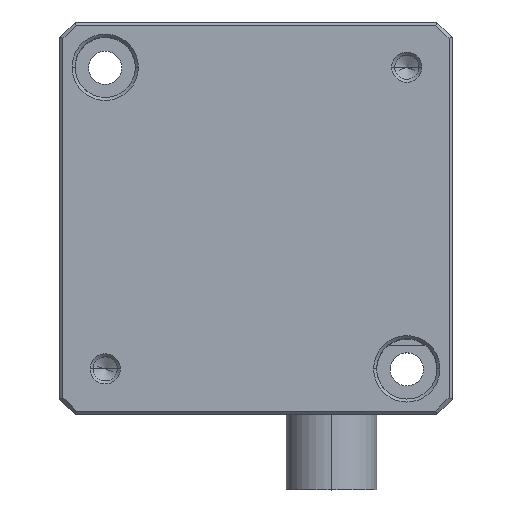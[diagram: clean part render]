
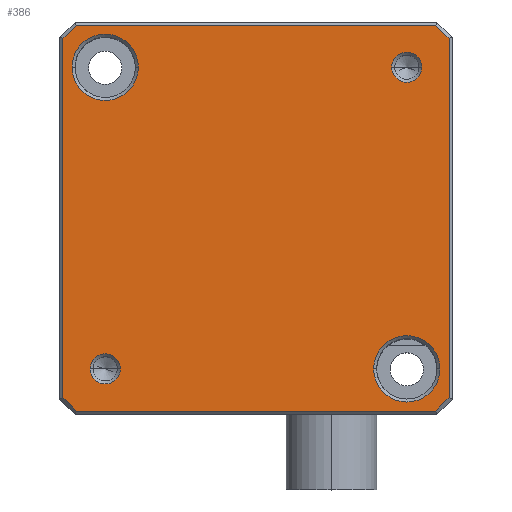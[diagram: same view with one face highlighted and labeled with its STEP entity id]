
A CAD part, top view. The second image highlights one B-rep face of the part: STEP entity #386.
In plain terms, the highlighted planar face has unit normal (0, 0, 1).
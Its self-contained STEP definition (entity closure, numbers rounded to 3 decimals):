
#71 = VERTEX_POINT ( 'NONE', #973 ) ;
#75 = AXIS2_PLACEMENT_3D ( 'NONE', #402, #1815, #2002 ) ;
#96 = DIRECTION ( 'NONE',  ( 1., 0., 0. ) ) ;
#117 = LINE ( 'NONE', #1059, #268 ) ;
#134 = EDGE_CURVE ( 'NONE', #178, #1342, #1196, .T. ) ;
#176 = EDGE_CURVE ( 'NONE', #1042, #961, #513, .T. ) ;
#178 = VERTEX_POINT ( 'NONE', #2029 ) ;
#181 = ORIENTED_EDGE ( 'NONE', *, *, #134, .T. ) ;
#190 = VECTOR ( 'NONE', #257, 1000. ) ;
#191 = EDGE_CURVE ( 'NONE', #1541, #815, #117, .T. ) ;
#244 = EDGE_CURVE ( 'NONE', #1086, #1509, #955, .T. ) ;
#257 = DIRECTION ( 'NONE',  ( -1., 0., 0. ) ) ;
#268 = VECTOR ( 'NONE', #678, 1000. ) ;
#296 = DIRECTION ( 'NONE',  ( 1., 0., 0. ) ) ;
#312 = CARTESIAN_POINT ( 'NONE',  ( -11., -10., 24. ) ) ;
#364 = FACE_BOUND ( 'NONE', #1144, .T. ) ;
#365 = EDGE_LOOP ( 'NONE', ( #1850, #181, #827, #1112, #2293, #1598, #2474, #1398 ) ) ;
#369 = EDGE_LOOP ( 'NONE', ( #1533, #2383 ) ) ;
#386 = ADVANCED_FACE ( 'NONE', ( #2052, #1922, #364, #1415, #1646 ), #1659, .T. ) ;
#402 = CARTESIAN_POINT ( 'NONE',  ( 10., 10., 24. ) ) ;
#408 = CARTESIAN_POINT ( 'NONE',  ( -12.8, 11.917, 24. ) ) ;
#417 = CARTESIAN_POINT ( 'NONE',  ( -10., -10., 24. ) ) ;
#423 = VECTOR ( 'NONE', #1128, 1000. ) ;
#425 = EDGE_CURVE ( 'NONE', #2059, #1367, #1527, .T. ) ;
#475 = EDGE_CURVE ( 'NONE', #815, #1157, #2471, .T. ) ;
#494 = CARTESIAN_POINT ( 'NONE',  ( 11.917, -12.8, 24. ) ) ;
#513 = CIRCLE ( 'NONE', #1621, 1. ) ;
#601 = AXIS2_PLACEMENT_3D ( 'NONE', #1251, #699, #2211 ) ;
#618 = EDGE_LOOP ( 'NONE', ( #1450, #2083 ) ) ;
#630 = CARTESIAN_POINT ( 'NONE',  ( -12.359, 12.359, 24. ) ) ;
#631 = LINE ( 'NONE', #1194, #190 ) ;
#638 = VECTOR ( 'NONE', #2294, 1000. ) ;
#666 = CARTESIAN_POINT ( 'NONE',  ( 10., -10., 24. ) ) ;
#678 = DIRECTION ( 'NONE',  ( 1., 0., 0. ) ) ;
#689 = LINE ( 'NONE', #1312, #944 ) ;
#699 = DIRECTION ( 'NONE',  ( 0., 0., -1. ) ) ;
#711 = DIRECTION ( 'NONE',  ( 0., 0., 1. ) ) ;
#715 = CARTESIAN_POINT ( 'NONE',  ( 0., 0., 24. ) ) ;
#795 = EDGE_CURVE ( 'NONE', #1367, #2059, #1445, .T. ) ;
#801 = DIRECTION ( 'NONE',  ( 1., 0., 0. ) ) ;
#813 = EDGE_CURVE ( 'NONE', #71, #1536, #1129, .T. ) ;
#815 = VERTEX_POINT ( 'NONE', #494 ) ;
#823 = ORIENTED_EDGE ( 'NONE', *, *, #795, .T. ) ;
#827 = ORIENTED_EDGE ( 'NONE', *, *, #1851, .T. ) ;
#841 = CIRCLE ( 'NONE', #2286, 2.2 ) ;
#857 = AXIS2_PLACEMENT_3D ( 'NONE', #715, #711, #1284 ) ;
#893 = LINE ( 'NONE', #630, #1879 ) ;
#934 = EDGE_CURVE ( 'NONE', #1509, #1086, #841, .T. ) ;
#944 = VECTOR ( 'NONE', #2266, 1000. ) ;
#945 = AXIS2_PLACEMENT_3D ( 'NONE', #666, #2391, #1228 ) ;
#955 = CIRCLE ( 'NONE', #2153, 2.2 ) ;
#961 = VERTEX_POINT ( 'NONE', #312 ) ;
#973 = CARTESIAN_POINT ( 'NONE',  ( 11., 10., 24. ) ) ;
#1036 = CARTESIAN_POINT ( 'NONE',  ( 7.8, -10., 24. ) ) ;
#1037 = DIRECTION ( 'NONE',  ( -0.707, -0.707, 0. ) ) ;
#1042 = VERTEX_POINT ( 'NONE', #1664 ) ;
#1058 = ORIENTED_EDGE ( 'NONE', *, *, #425, .T. ) ;
#1059 = CARTESIAN_POINT ( 'NONE',  ( 12., -12.8, 24. ) ) ;
#1086 = VERTEX_POINT ( 'NONE', #1685 ) ;
#1112 = ORIENTED_EDGE ( 'NONE', *, *, #1837, .T. ) ;
#1120 = EDGE_CURVE ( 'NONE', #2357, #2149, #1469, .T. ) ;
#1128 = DIRECTION ( 'NONE',  ( 0.707, 0.707, 0. ) ) ;
#1129 = CIRCLE ( 'NONE', #601, 1. ) ;
#1144 = EDGE_LOOP ( 'NONE', ( #1058, #823 ) ) ;
#1157 = VERTEX_POINT ( 'NONE', #2301 ) ;
#1194 = CARTESIAN_POINT ( 'NONE',  ( -12., 12.8, 24. ) ) ;
#1196 = LINE ( 'NONE', #1231, #638 ) ;
#1228 = DIRECTION ( 'NONE',  ( 1., 0., 0. ) ) ;
#1231 = CARTESIAN_POINT ( 'NONE',  ( 12.359, 12.359, 24. ) ) ;
#1251 = CARTESIAN_POINT ( 'NONE',  ( 10., 10., 24. ) ) ;
#1284 = DIRECTION ( 'NONE',  ( 1., 0., 0. ) ) ;
#1312 = CARTESIAN_POINT ( 'NONE',  ( 12.8, 12., 24. ) ) ;
#1314 = VECTOR ( 'NONE', #1333, 1000. ) ;
#1333 = DIRECTION ( 'NONE',  ( 0., -1., 0. ) ) ;
#1342 = VERTEX_POINT ( 'NONE', #1549 ) ;
#1367 = VERTEX_POINT ( 'NONE', #1036 ) ;
#1398 = ORIENTED_EDGE ( 'NONE', *, *, #475, .T. ) ;
#1408 = AXIS2_PLACEMENT_3D ( 'NONE', #417, #1752, #801 ) ;
#1415 = FACE_BOUND ( 'NONE', #618, .T. ) ;
#1445 = CIRCLE ( 'NONE', #945, 2.2 ) ;
#1450 = ORIENTED_EDGE ( 'NONE', *, *, #176, .T. ) ;
#1453 = ORIENTED_EDGE ( 'NONE', *, *, #244, .T. ) ;
#1469 = LINE ( 'NONE', #1712, #1314 ) ;
#1484 = CARTESIAN_POINT ( 'NONE',  ( -12.8, -11.917, 24. ) ) ;
#1509 = VERTEX_POINT ( 'NONE', #1834 ) ;
#1510 = CARTESIAN_POINT ( 'NONE',  ( -12.359, -12.359, 24. ) ) ;
#1527 = CIRCLE ( 'NONE', #2021, 2.2 ) ;
#1533 = ORIENTED_EDGE ( 'NONE', *, *, #813, .T. ) ;
#1536 = VERTEX_POINT ( 'NONE', #2491 ) ;
#1541 = VERTEX_POINT ( 'NONE', #2102 ) ;
#1549 = CARTESIAN_POINT ( 'NONE',  ( 11.917, 12.8, 24. ) ) ;
#1598 = ORIENTED_EDGE ( 'NONE', *, *, #1700, .T. ) ;
#1621 = AXIS2_PLACEMENT_3D ( 'NONE', #2384, #1629, #296 ) ;
#1629 = DIRECTION ( 'NONE',  ( 0., 0., -1. ) ) ;
#1636 = DIRECTION ( 'NONE',  ( 0., 0., -1. ) ) ;
#1646 = FACE_BOUND ( 'NONE', #369, .T. ) ;
#1648 = DIRECTION ( 'NONE',  ( 0., 0., -1. ) ) ;
#1659 = PLANE ( 'NONE',  #857 ) ;
#1664 = CARTESIAN_POINT ( 'NONE',  ( -9., -10., 24. ) ) ;
#1670 = DIRECTION ( 'NONE',  ( 1., 0., 0. ) ) ;
#1685 = CARTESIAN_POINT ( 'NONE',  ( -7.8, 10., 24. ) ) ;
#1700 = EDGE_CURVE ( 'NONE', #2149, #1541, #2332, .T. ) ;
#1712 = CARTESIAN_POINT ( 'NONE',  ( -12.8, -12., 24. ) ) ;
#1752 = DIRECTION ( 'NONE',  ( 0., 0., -1. ) ) ;
#1814 = CARTESIAN_POINT ( 'NONE',  ( -10., 10., 24. ) ) ;
#1815 = DIRECTION ( 'NONE',  ( 0., 0., -1. ) ) ;
#1826 = CARTESIAN_POINT ( 'NONE',  ( -11.917, 12.8, 24. ) ) ;
#1834 = CARTESIAN_POINT ( 'NONE',  ( -12.2, 10., 24. ) ) ;
#1837 = EDGE_CURVE ( 'NONE', #1991, #2357, #893, .T. ) ;
#1850 = ORIENTED_EDGE ( 'NONE', *, *, #2198, .T. ) ;
#1851 = EDGE_CURVE ( 'NONE', #1342, #1991, #631, .T. ) ;
#1879 = VECTOR ( 'NONE', #1037, 1000. ) ;
#1922 = FACE_BOUND ( 'NONE', #1929, .T. ) ;
#1929 = EDGE_LOOP ( 'NONE', ( #1453, #2204 ) ) ;
#1991 = VERTEX_POINT ( 'NONE', #1826 ) ;
#2002 = DIRECTION ( 'NONE',  ( 1., 0., 0. ) ) ;
#2021 = AXIS2_PLACEMENT_3D ( 'NONE', #2240, #1648, #1670 ) ;
#2023 = CARTESIAN_POINT ( 'NONE',  ( -10., 10., 24. ) ) ;
#2029 = CARTESIAN_POINT ( 'NONE',  ( 12.8, 11.917, 24. ) ) ;
#2041 = DIRECTION ( 'NONE',  ( 0., 0., -1. ) ) ;
#2052 = FACE_OUTER_BOUND ( 'NONE', #365, .T. ) ;
#2059 = VERTEX_POINT ( 'NONE', #2201 ) ;
#2083 = ORIENTED_EDGE ( 'NONE', *, *, #2461, .T. ) ;
#2102 = CARTESIAN_POINT ( 'NONE',  ( -11.917, -12.8, 24. ) ) ;
#2149 = VERTEX_POINT ( 'NONE', #1484 ) ;
#2153 = AXIS2_PLACEMENT_3D ( 'NONE', #1814, #1636, #96 ) ;
#2156 = VECTOR ( 'NONE', #2303, 1000. ) ;
#2159 = CIRCLE ( 'NONE', #1408, 1. ) ;
#2198 = EDGE_CURVE ( 'NONE', #1157, #178, #689, .T. ) ;
#2201 = CARTESIAN_POINT ( 'NONE',  ( 12.2, -10., 24. ) ) ;
#2204 = ORIENTED_EDGE ( 'NONE', *, *, #934, .T. ) ;
#2211 = DIRECTION ( 'NONE',  ( 1., 0., 0. ) ) ;
#2225 = DIRECTION ( 'NONE',  ( 1., 0., 0. ) ) ;
#2240 = CARTESIAN_POINT ( 'NONE',  ( 10., -10., 24. ) ) ;
#2266 = DIRECTION ( 'NONE',  ( 0., 1., 0. ) ) ;
#2286 = AXIS2_PLACEMENT_3D ( 'NONE', #2023, #2041, #2225 ) ;
#2293 = ORIENTED_EDGE ( 'NONE', *, *, #1120, .T. ) ;
#2294 = DIRECTION ( 'NONE',  ( -0.707, 0.707, 0. ) ) ;
#2301 = CARTESIAN_POINT ( 'NONE',  ( 12.8, -11.917, 24. ) ) ;
#2303 = DIRECTION ( 'NONE',  ( 0.707, -0.707, 0. ) ) ;
#2332 = LINE ( 'NONE', #1510, #2156 ) ;
#2357 = VERTEX_POINT ( 'NONE', #408 ) ;
#2383 = ORIENTED_EDGE ( 'NONE', *, *, #2477, .T. ) ;
#2384 = CARTESIAN_POINT ( 'NONE',  ( -10., -10., 24. ) ) ;
#2391 = DIRECTION ( 'NONE',  ( 0., 0., -1. ) ) ;
#2395 = CIRCLE ( 'NONE', #75, 1. ) ;
#2461 = EDGE_CURVE ( 'NONE', #961, #1042, #2159, .T. ) ;
#2470 = CARTESIAN_POINT ( 'NONE',  ( 12.359, -12.359, 24. ) ) ;
#2471 = LINE ( 'NONE', #2470, #423 ) ;
#2474 = ORIENTED_EDGE ( 'NONE', *, *, #191, .T. ) ;
#2477 = EDGE_CURVE ( 'NONE', #1536, #71, #2395, .T. ) ;
#2491 = CARTESIAN_POINT ( 'NONE',  ( 9., 10., 24. ) ) ;
